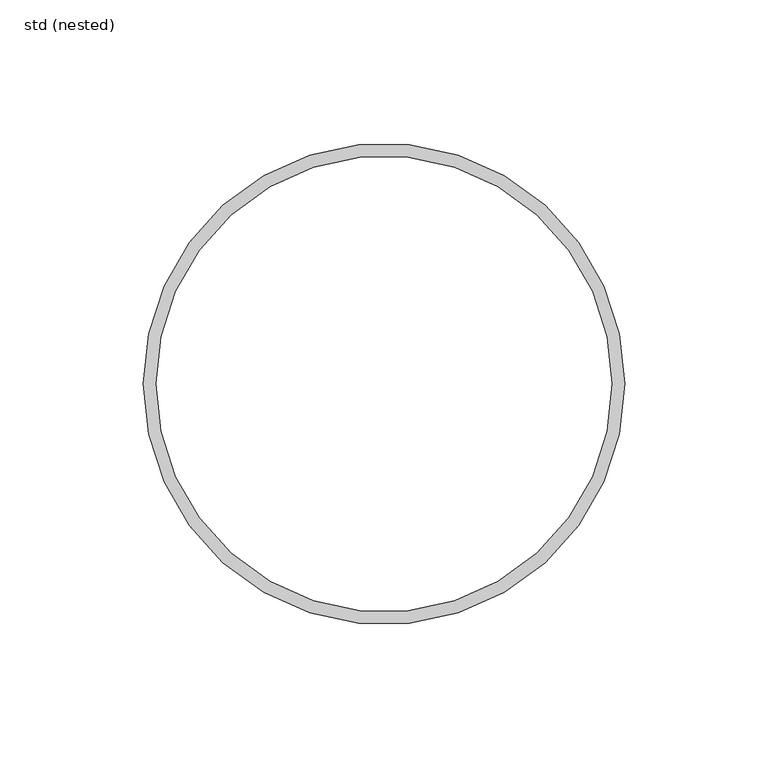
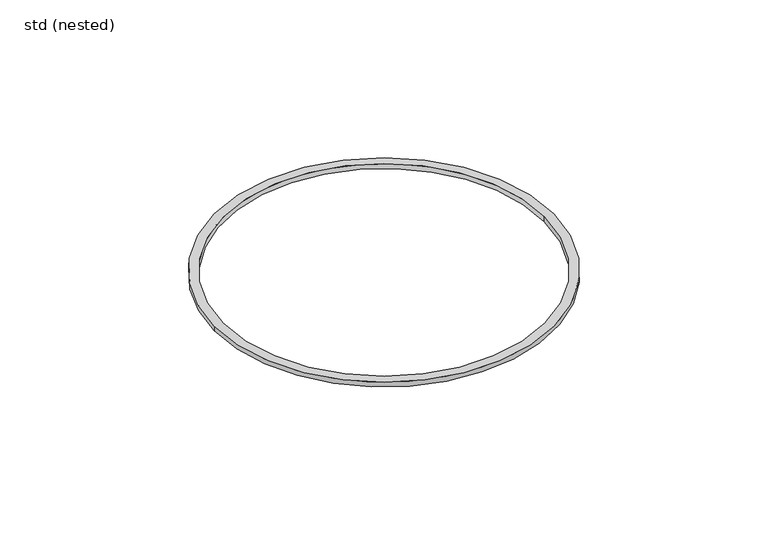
"""IFC4 building model written with IfcOpenShell, lengths in millimetres: pipe fitting geometry, ZZZ_do not use_PIF_GEN_WPB_GM-X (compound) pipe seal_ACO : std (nested)."""

from ifc_helpers import new_model, si_unit, point, origin, origin_with_axes, origin_2d, place, context, project, spatial, circle_curve, trimmed, segment, composite_curve, outline, extrude, source, transform, mapped, element, save


def std_nested_3dcc5080(model_context):
    return source(origin(), model_context, "Body", "SweptSolid", [
        extrude(outline(composite_curve([segment(trimmed(circle_curve(origin_2d(), 84.0), [point((84.0, 0.0))], [point((-84.0, 0.0))], False, "CARTESIAN"), True, "CONTINUOUS"), segment(trimmed(circle_curve(origin_2d(), 84.0), [point((-84.0, 0.0))], [point((84.0, 0.0))], False, "CARTESIAN"), True, "CONTINUOUS")], self_intersect=False), holes=[composite_curve([segment(trimmed(circle_curve(origin_2d(), 79.5), [point((79.5, 0.0))], [point((-79.5, 0.0))], True, "CARTESIAN"), True, "CONTINUOUS"), segment(trimmed(circle_curve(origin_2d(), 79.5), [point((-79.5, 0.0))], [point((79.5, 0.0))], True, "CARTESIAN"), True, "CONTINUOUS")], self_intersect=False)]), origin_with_axes(), (0.0, 0.0, 1.0), 2.5),
    ])


if __name__ == "__main__":
    model = new_model("IFC4")
    model_context = context("Model", 3, world=origin())
    ifc_project = project(units=[si_unit("LENGTHUNIT", "METRE", prefix="MILLI")], contexts=[model_context])
    site = spatial("IfcSite", under=ifc_project)
    building = spatial("IfcBuilding", under=site)
    placement = place(None, origin())
    std_nested_shape = std_nested_3dcc5080(model_context)
    element("IfcPipeFitting", 1, ObjectType="ZZZ_do not use_PIF_GEN_WPB_GM-X (compound) pipe seal_ACO : std (nested)", at=placement, inside=building, context=model_context, shape_type="MappedRepresentation", body=[
        mapped(std_nested_shape, transform((0.0, 0.0, 0.0), x_axis=(1.0, 0.0, 0.0), y_axis=(0.0, 1.0, 0.0), z_axis=(0.0, 0.0, 1.0))),
    ])
    save(model, "model.ifc")
